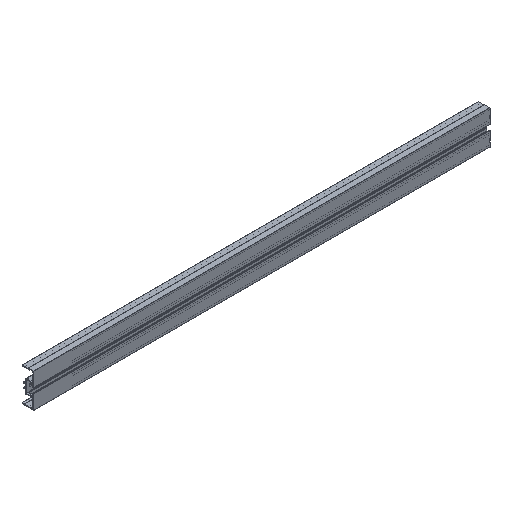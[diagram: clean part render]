
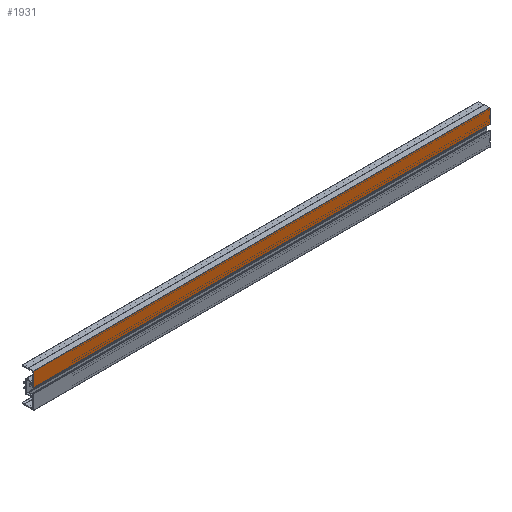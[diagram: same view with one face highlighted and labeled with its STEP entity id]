
A CAD part, isometric view. The second image highlights one B-rep face of the part: STEP entity #1931.
In plain terms, the highlighted planar face has unit normal (0, -1, 0).
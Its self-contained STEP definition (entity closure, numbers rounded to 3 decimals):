
#200=FACE_OUTER_BOUND('',#296,.T.);
#296=EDGE_LOOP('',(#1578,#1579,#1580,#1581));
#516=LINE('',#3205,#736);
#517=LINE('',#3209,#737);
#518=LINE('',#3211,#738);
#519=LINE('',#3212,#739);
#736=VECTOR('',#2633,10.);
#737=VECTOR('',#2638,10.);
#738=VECTOR('',#2639,10.);
#739=VECTOR('',#2640,10.);
#924=VERTEX_POINT('',#3202);
#925=VERTEX_POINT('',#3204);
#926=VERTEX_POINT('',#3208);
#927=VERTEX_POINT('',#3210);
#1203=EDGE_CURVE('',#925,#924,#516,.T.);
#1205=EDGE_CURVE('',#924,#926,#517,.T.);
#1206=EDGE_CURVE('',#927,#926,#518,.T.);
#1207=EDGE_CURVE('',#927,#925,#519,.T.);
#1578=ORIENTED_EDGE('',*,*,#1205,.T.);
#1579=ORIENTED_EDGE('',*,*,#1206,.F.);
#1580=ORIENTED_EDGE('',*,*,#1207,.T.);
#1581=ORIENTED_EDGE('',*,*,#1203,.T.);
#1836=PLANE('',#2107);
#1931=ADVANCED_FACE('',(#200),#1836,.T.);
#2107=AXIS2_PLACEMENT_3D('',#3207,#2636,#2637);
#2633=DIRECTION('',(1.,0.,0.));
#2636=DIRECTION('center_axis',(0.,-1.,0.));
#2637=DIRECTION('ref_axis',(0.,0.,-1.));
#2638=DIRECTION('',(0.,0.,1.));
#2639=DIRECTION('',(1.,0.,0.));
#2640=DIRECTION('',(0.,0.,-1.));
#3202=CARTESIAN_POINT('',(1000.,-52.5,6.05));
#3204=CARTESIAN_POINT('',(0.,-52.5,6.05));
#3205=CARTESIAN_POINT('',(0.,-52.5,6.05));
#3207=CARTESIAN_POINT('Origin',(0.,-52.5,6.05));
#3208=CARTESIAN_POINT('',(1000.,-52.5,37.));
#3209=CARTESIAN_POINT('',(1000.,-52.5,37.));
#3210=CARTESIAN_POINT('',(0.,-52.5,37.));
#3211=CARTESIAN_POINT('',(0.,-52.5,37.));
#3212=CARTESIAN_POINT('',(0.,-52.5,37.));
